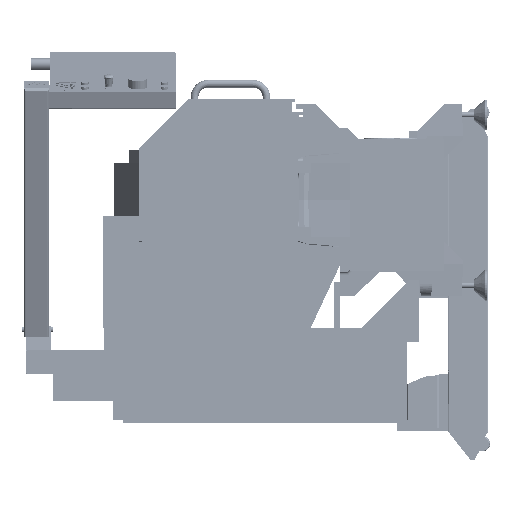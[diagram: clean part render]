
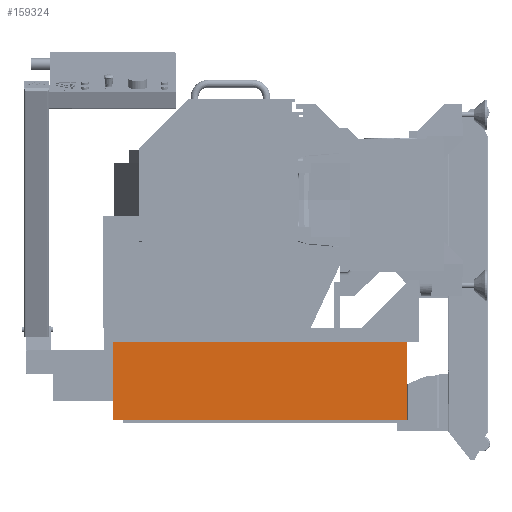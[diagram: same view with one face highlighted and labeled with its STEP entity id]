
A CAD part, left-side view. The second image highlights one B-rep face of the part: STEP entity #159324.
In plain terms, the highlighted planar face has unit normal (-1, 0, 0).
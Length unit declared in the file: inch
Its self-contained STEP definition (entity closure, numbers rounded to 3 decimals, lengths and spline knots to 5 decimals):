
#6761 = LINE ( 'NONE', #119884, #253777 ) ;
#10706 = DIRECTION ( 'NONE',  ( 0., 1., 0. ) ) ;
#30920 = DIRECTION ( 'NONE',  ( 0., 1., 0. ) ) ;
#48143 = PLANE ( 'NONE',  #334250 ) ;
#49213 = VERTEX_POINT ( 'NONE', #308958 ) ;
#78151 = ORIENTED_EDGE ( 'NONE', *, *, #292496, .F. ) ;
#80322 = CARTESIAN_POINT ( 'NONE',  ( 20.7, 17.68826, -36.045 ) ) ;
#86435 = CARTESIAN_POINT ( 'NONE',  ( 20.7, -30.52674, -36.045 ) ) ;
#103776 = DIRECTION ( 'NONE',  ( -1., 0., 0. ) ) ;
#105611 = FACE_OUTER_BOUND ( 'NONE', #223897, .T. ) ;
#109975 = LINE ( 'NONE', #80322, #169612 ) ;
#111025 = VECTOR ( 'NONE', #138413, 39.37008 ) ;
#113642 = DIRECTION ( 'NONE',  ( 0., 0., 1. ) ) ;
#113961 = ORIENTED_EDGE ( 'NONE', *, *, #230080, .T. ) ;
#115906 = EDGE_CURVE ( 'NONE', #132574, #287432, #335000, .T. ) ;
#119884 = CARTESIAN_POINT ( 'NONE',  ( 20.7, -68.62204, -36.045 ) ) ;
#123861 = CARTESIAN_POINT ( 'NONE',  ( 20.7, 17.68826, -23.32 ) ) ;
#131849 = EDGE_CURVE ( 'NONE', #287432, #349553, #6761, .T. ) ;
#132574 = VERTEX_POINT ( 'NONE', #367151 ) ;
#137090 = CARTESIAN_POINT ( 'NONE',  ( 20.7, -68.62204, -36.045 ) ) ;
#138413 = DIRECTION ( 'NONE',  ( 0., 0., -1. ) ) ;
#159324 = ADVANCED_FACE ( 'NONE', ( #105611 ), #48143, .T. ) ;
#169612 = VECTOR ( 'NONE', #113642, 39.37008 ) ;
#207300 = VECTOR ( 'NONE', #10706, 39.37008 ) ;
#223897 = EDGE_LOOP ( 'NONE', ( #355695, #113961, #78151, #244413 ) ) ;
#230080 = EDGE_CURVE ( 'NONE', #132574, #49213, #266683, .T. ) ;
#244413 = ORIENTED_EDGE ( 'NONE', *, *, #131849, .F. ) ;
#253777 = VECTOR ( 'NONE', #30920, 39.37008 ) ;
#266683 = LINE ( 'NONE', #123861, #207300 ) ;
#267807 = CARTESIAN_POINT ( 'NONE',  ( 20.7, -30.52674, -36.045 ) ) ;
#278543 = CARTESIAN_POINT ( 'NONE',  ( 20.7, 17.68826, -36.045 ) ) ;
#287432 = VERTEX_POINT ( 'NONE', #267807 ) ;
#292496 = EDGE_CURVE ( 'NONE', #349553, #49213, #109975, .T. ) ;
#308958 = CARTESIAN_POINT ( 'NONE',  ( 20.7, 17.68826, -23.32 ) ) ;
#330049 = DIRECTION ( 'NONE',  ( 0., -1., 0. ) ) ;
#334250 = AXIS2_PLACEMENT_3D ( 'NONE', #137090, #103776, #330049 ) ;
#335000 = LINE ( 'NONE', #86435, #111025 ) ;
#349553 = VERTEX_POINT ( 'NONE', #278543 ) ;
#355695 = ORIENTED_EDGE ( 'NONE', *, *, #115906, .F. ) ;
#367151 = CARTESIAN_POINT ( 'NONE',  ( 20.7, -30.52674, -23.32 ) ) ;
